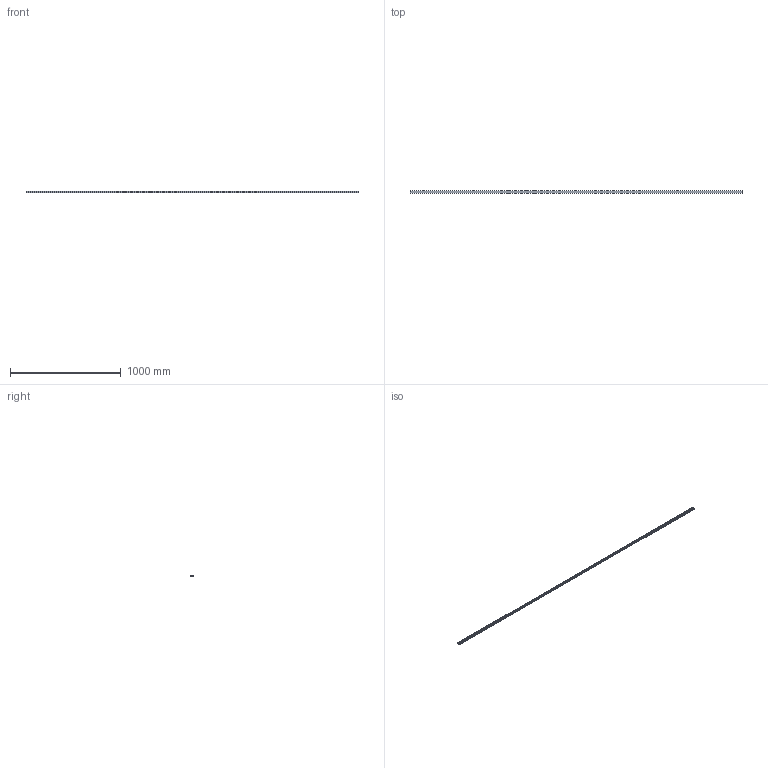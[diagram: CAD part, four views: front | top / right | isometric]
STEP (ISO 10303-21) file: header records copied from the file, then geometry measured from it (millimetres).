
FILE_DESCRIPTION (( 'STEP AP203' ), '1' );
FILE_NAME ('17.M07A30000 M7A.STEP', '2025-08-02T01:37:59', ( '' ), ( '' ), 'SwSTEP 2.0', 'SolidWorks 2020', '' );
FILE_SCHEMA (( 'CONFIG_CONTROL_DESIGN' ));
Length unit declared in the file: millimetre
Products named in the file (4): KC-0006-0003.stp; KC-0006-0045.stp; 17.M07A30000 M7A; KC-0006-0002.stp
Assembly tree (3 placements, depth 2):
  17.M07A30000 M7A
    KC-0006-0045.stp
    KC-0006-0002.stp
    KC-0006-0003.stp
Bounding box: 3000 x 20 x 12.5 mm (x, y, z)
Volume: 322766.3 mm3; surface area: 530610 mm2
Topology: 7 solids, 7 shells, 114 faces, 300 edges, 200 vertices
Faces by surface type: plane 82, cylinder 18, cone 14
Entity records: 3942 total; most frequent: CARTESIAN_POINT 620, DIRECTION 604, ORIENTED_EDGE 600, EDGE_CURVE 300, VECTOR 236, LINE 236, VERTEX_POINT 200, AXIS2_PLACEMENT_3D 184
